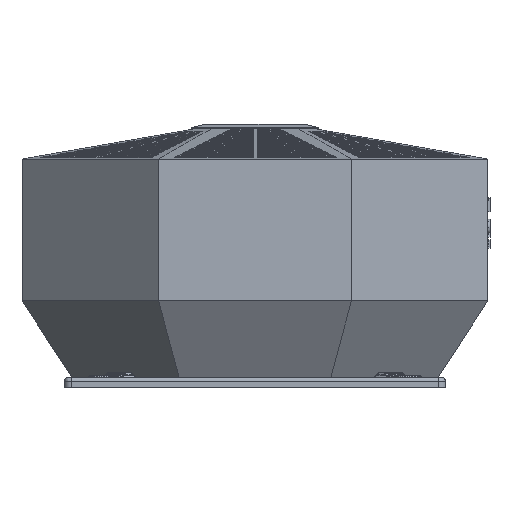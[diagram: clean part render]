
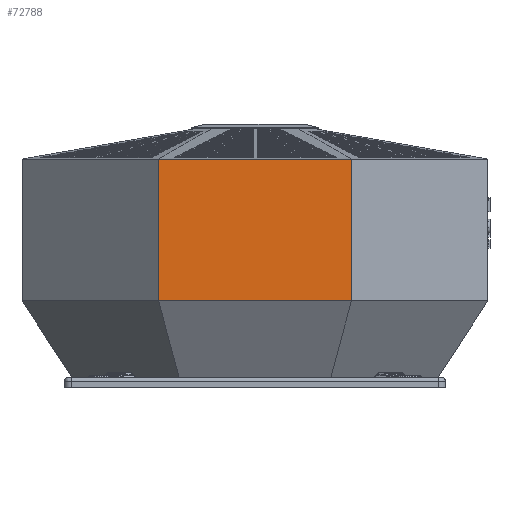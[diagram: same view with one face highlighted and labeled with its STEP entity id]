
A CAD part, left-side view. The second image highlights one B-rep face of the part: STEP entity #72788.
In plain terms, the highlighted planar face has unit normal (-1, 0, 0).
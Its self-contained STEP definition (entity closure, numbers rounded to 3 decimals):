
#7911=LINE('',#126858,#14374);
#7920=LINE('',#126876,#14383);
#7922=LINE('',#126879,#14385);
#7923=LINE('',#126881,#14386);
#14374=VECTOR('',#97452,10.);
#14383=VECTOR('',#97469,10.);
#14385=VECTOR('',#97473,10.);
#14386=VECTOR('',#97476,10.);
#19904=FACE_OUTER_BOUND('',#24074,.T.);
#24074=EDGE_LOOP('',(#63774,#63775,#63776,#63777));
#28462=VERTEX_POINT('',#111517);
#28463=VERTEX_POINT('',#111525);
#33467=VERTEX_POINT('',#126853);
#33470=VERTEX_POINT('',#126866);
#43579=EDGE_CURVE('',#28463,#33467,#7911,.T.);
#43588=EDGE_CURVE('',#28462,#33470,#7920,.T.);
#43590=EDGE_CURVE('',#33470,#33467,#7922,.T.);
#43591=EDGE_CURVE('',#28463,#28462,#7923,.T.);
#63774=ORIENTED_EDGE('',*,*,#43590,.T.);
#63775=ORIENTED_EDGE('',*,*,#43579,.F.);
#63776=ORIENTED_EDGE('',*,*,#43591,.T.);
#63777=ORIENTED_EDGE('',*,*,#43588,.T.);
#65842=PLANE('',#78895);
#72788=ADVANCED_FACE('',(#19904),#65842,.T.);
#78895=AXIS2_PLACEMENT_3D('',#126880,#97474,#97475);
#97452=DIRECTION('',(0.,0.,1.));
#97469=DIRECTION('',(0.,0.,1.));
#97473=DIRECTION('',(0.,1.,0.));
#97474=DIRECTION('center_axis',(-1.,0.,0.));
#97475=DIRECTION('ref_axis',(0.,-1.,0.));
#97476=DIRECTION('',(0.,-1.,0.));
#111517=CARTESIAN_POINT('',(-244.845,-40.757,-50.128));
#111525=CARTESIAN_POINT('',(-244.845,242.98,-50.128));
#126853=CARTESIAN_POINT('',(-244.845,242.98,158.272));
#126858=CARTESIAN_POINT('',(-244.845,242.98,-162.728));
#126866=CARTESIAN_POINT('',(-244.845,-40.757,158.272));
#126876=CARTESIAN_POINT('',(-244.845,-40.757,-162.728));
#126879=CARTESIAN_POINT('',(-244.845,343.296,158.272));
#126880=CARTESIAN_POINT('Origin',(-244.845,242.98,-162.728));
#126881=CARTESIAN_POINT('',(-244.845,343.296,-50.128));
